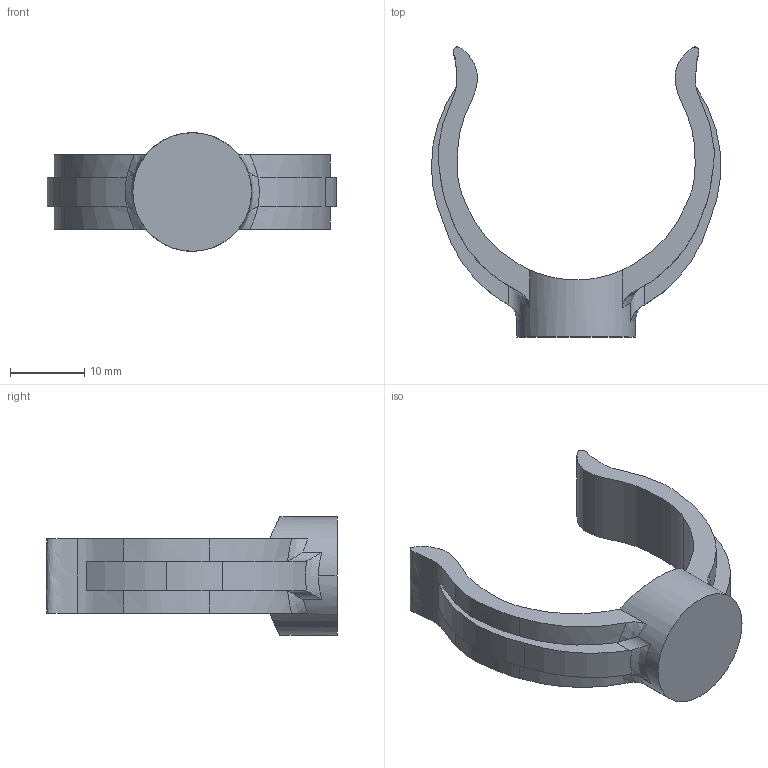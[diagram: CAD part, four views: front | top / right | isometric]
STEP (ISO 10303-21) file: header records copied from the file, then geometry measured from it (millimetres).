
FILE_DESCRIPTION (( 'STEP AP203' ), '1' );
FILE_NAME ('collier N2-v2.STEP', '2025-09-04T13:45:01', ( '' ), ( '' ), 'SwSTEP 2.0', 'SolidWorks 2024', '' );
FILE_SCHEMA (( 'CONFIG_CONTROL_DESIGN' ));
Length unit declared in the file: millimetre
Products named in the file (1): collier N2-v2
Bounding box: 38.99 x 39.11 x 16 mm (x, y, z)
Volume: 3873.2 mm3; surface area: 2779.6 mm2
Topology: 1 solids, 1 shells, 47 faces, 135 edges, 90 vertices
Faces by surface type: cylinder 18, bspline 18, plane 11
Entity records: 2138 total; most frequent: CARTESIAN_POINT 985, ORIENTED_EDGE 270, DIRECTION 159, EDGE_CURVE 135, VERTEX_POINT 90, B_SPLINE_CURVE_WITH_KNOTS 64, AXIS2_PLACEMENT_3D 58, FACE_OUTER_BOUND 47
